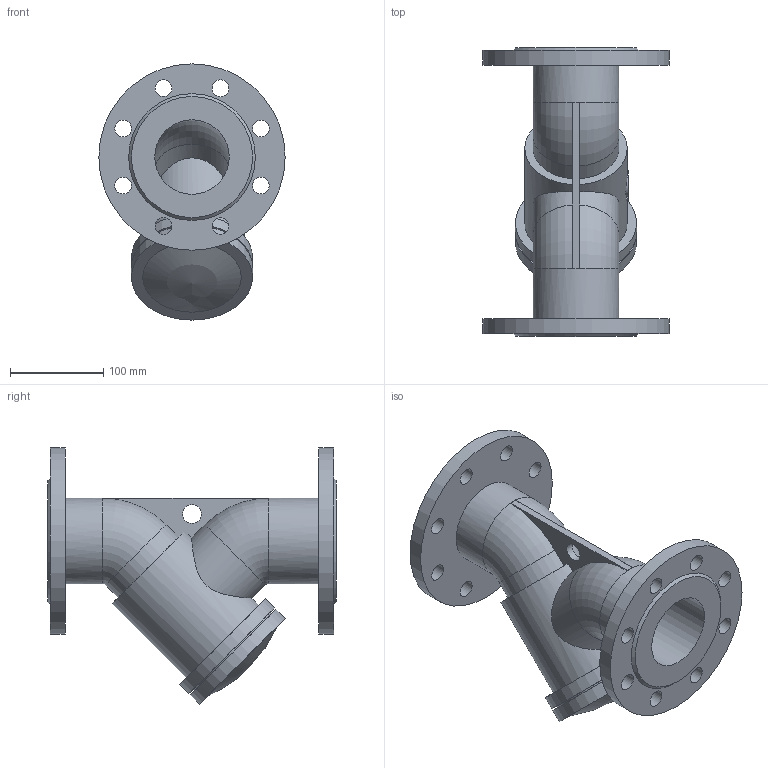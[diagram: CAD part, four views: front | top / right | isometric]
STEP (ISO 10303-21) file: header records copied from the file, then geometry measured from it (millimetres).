
FILE_DESCRIPTION(('STEP AP203'), '1');
FILE_NAME('Ôèëüòð ñåò÷àòûé ôëàíöåâûé 021Y.Z DN80 PN10_PN16', '', ('UNSPECIFIED'), ('UNSPECIFIED'), 'ASCON STEP Converter 1.6', 'ASCON Math Kernel', '');
FILE_SCHEMA(('CONFIG_CONTROL_DESIGN'));
Length unit declared in the file: millimetre
Bounding box: 200 x 310 x 275 mm (x, y, z)
Volume: 2720519.6 mm3; surface area: 344071.6 mm2
Topology: 1 solids, 1 shells, 75 faces, 171 edges, 110 vertices
Faces by surface type: cylinder 39, plane 29, torus 4, cone 2, sphere 1
Full cylindrical faces by diameter (mm): 18 x16, 20 x1, 80 x4, 92 x2, 110 x1, 118 x1, 130 x2, 200 x2
Entity records: 3610 total; most frequent: CARTESIAN_POINT 1293, DIRECTION 361, ORIENTED_EDGE 272, AXIS2_PLACEMENT_3D 160, EDGE_LOOP 155, EDGE_CURVE 136, VERTEX_POINT 109, FACE_BOUND 91
